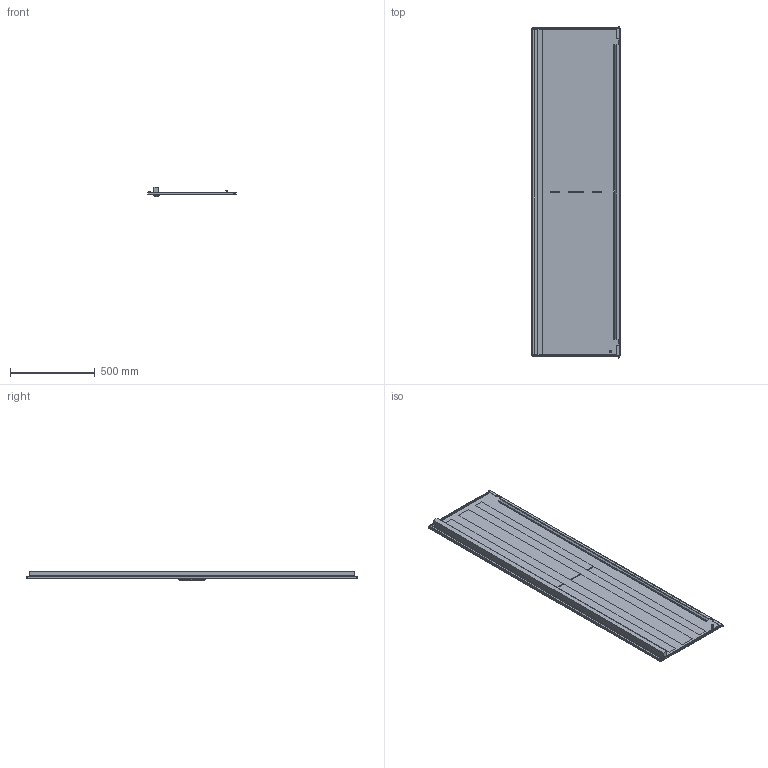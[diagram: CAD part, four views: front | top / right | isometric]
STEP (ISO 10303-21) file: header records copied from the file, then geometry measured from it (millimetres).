
FILE_DESCRIPTION (( 'STEP AP203' ), '1' );
FILE_NAME ('D 200.60 IP Äâåðü òåëåêîììóíèêàöèîííàÿ ïåðôîðèðîâàííàÿ.STEP', '2013-01-15T06:47:47', ( 'System' ), ( '' ), 'SwSTEP 2.0', 'SolidWorks 2012', '' );
FILE_SCHEMA (( 'CONFIG_CONTROL_DESIGN' ));
Length unit declared in the file: millimetre
Products named in the file (1): D 200.60 IP Äâåðü òåëåêîììóíèêàöèîííàÿ ïåðôîðèðîâàííàÿ
Bounding box: 518 x 1953.5 x 55 mm (x, y, z)
Volume: 3938063.7 mm3; surface area: 2485845.6 mm2
Topology: 5 solids, 5 shells, 258 faces, 626 edges, 366 vertices
Faces by surface type: cylinder 124, plane 86, sphere 24, cone 20, torus 4
Entity records: 7521 total; most frequent: DIRECTION 1402, CARTESIAN_POINT 1231, ORIENTED_EDGE 1212, EDGE_CURVE 606, AXIS2_PLACEMENT_3D 537, VERTEX_POINT 366, VECTOR 328, LINE 328
